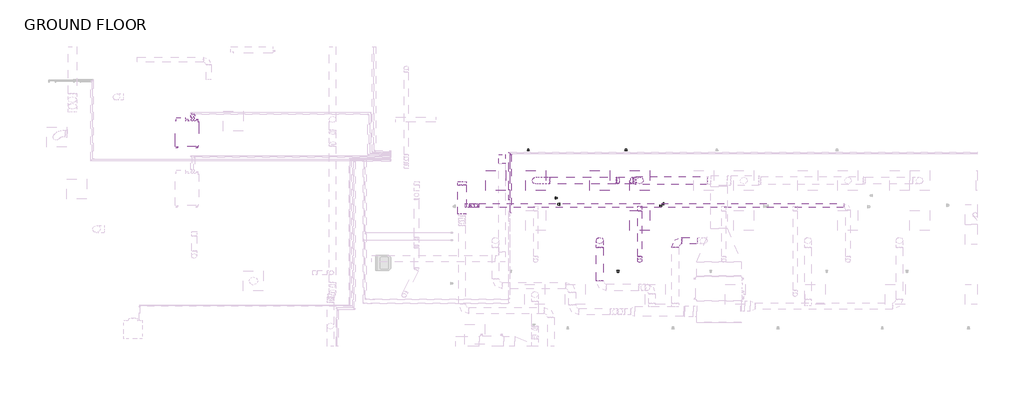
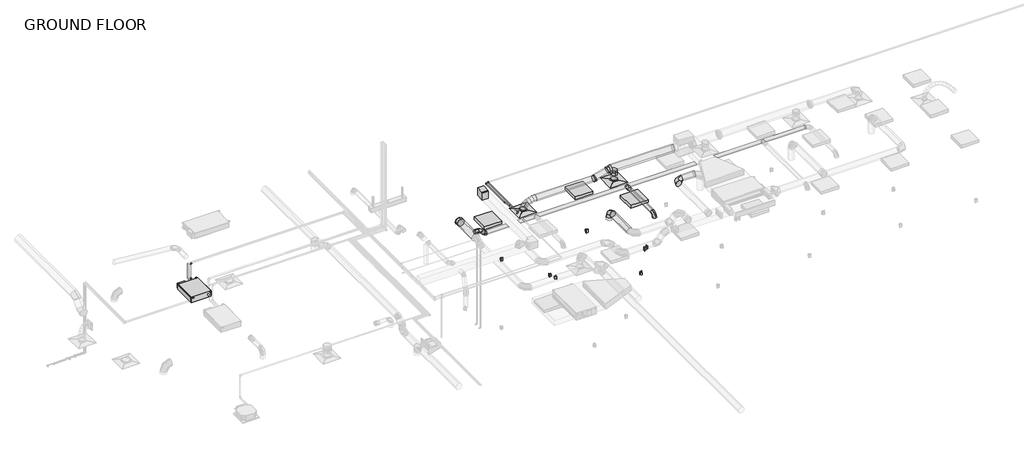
# One storey, part 15 of 20: 14 duct segments, 13 duct fittings, 7 pipe fittings, 7 pipe segments, 7 proxies, 3 light fixtures, 2 air terminals, 1 switching device.
"""IFC4 building model written with IfcOpenShell, lengths in millimetres."""

from ifc_helpers import new_model, si_unit, point, frame, frame_2d, origin, place, context, project, spatial, circle_curve, ellipse_curve, trimmed, segment, composite_curve, outline, extrude, transform, mapped, element, save
from ifc_brep_helpers import plane_surface, cylinder_surface, advanced_brep
from components import air_terminal_e9020785, mechanical_equipment_deea6110, duplex_receptacle_countertop_10251bba, rectangular_elbow_mitered_standard_f09b78ec, round_elbow_1_d_a253342a, round_elbow_1_d_c80420c1, round_elbow_1_d_adb29f0a, round_elbow_1_d_42c0595d, round_takeoff_standard_ca4b4131, round_takeoff_standard_17dc06e3, round_takeoff_standard_86724b47, round_takeoff_standard_17f2ae85, round_transition_angle_45_degree_2c0294df, troffer_corner_insert_2x2_3lamp_e67c7f8f, elbow_generic_standard_be2ddd46, elbow_generic_standard_c06ac706, elbow_generic_standard_3179f303, transition_generic_standard_43f54093

model = new_model("IFC4")

# Units and contexts
model_context = context("Model", 3, world=origin())
ifc_project = project(units=[si_unit("LENGTHUNIT", "METRE", prefix="MILLI")], contexts=[model_context])

# Site, building, storey
site = spatial("IfcSite", under=ifc_project)
building = spatial("IfcBuilding", under=site)
storey = spatial("IfcBuildingStorey", under=building, Name="GROUND FLOOR", Elevation=30480.0)

# Air terminals
placement = place(None, origin())
air_terminal_shape = air_terminal_e9020785(model_context)
element("IfcAirTerminal", 1, ObjectType="Supply Diffuser - Rectangular Face Round Neck - Hosted : 24\"x24\" Face 8\" Neck - Hosted", at=placement, inside=storey, context=model_context, shape_type="MappedRepresentation", body=[
    mapped(air_terminal_shape, transform((-5009.1954607, 6811.3695005, 33223.2), x_axis=(0.0, -1.0, 0.0), y_axis=(-1.0, 0.0, 0.0), z_axis=(0.0, 0.0, -1.0))),
])
element("IfcAirTerminal", 2, ObjectType="Supply Diffuser - Rectangular Face Round Neck - Hosted : 24\"x24\" Face 8\" Neck - Hosted", at=placement, inside=storey, context=model_context, shape_type="MappedRepresentation", body=[
    mapped(air_terminal_shape, transform((-1837.3704607, 6811.3695005, 33223.2), x_axis=(0.0, -1.0, 0.0), y_axis=(-1.0, 0.0, 0.0), z_axis=(0.0, 0.0, -1.0))),
])

# Proxies
mechanical_equipment_shape = mechanical_equipment_deea6110(model_context)
element("IfcBuildingElementProxy", 3, Name="PEFY-P-NMSU-E_Low_Profile_Ducted : PEFY-P12NMSU-E", ObjectType="PEFY-P-NMSU-E_Low_Profile_Ducted : PEFY-P12NMSU-E", at=placement, inside=storey, context=model_context, shape_type="MappedRepresentation", body=[
    mapped(mechanical_equipment_shape, transform((-15624.8774525, 8243.4520797, 33021.7207031), x_axis=(0.0, 1.0, 0.0), y_axis=(-1.0, 0.0, 0.0), z_axis=(0.0, 0.0, 1.0))),
])
duplex_receptacle_countertop_shape = duplex_receptacle_countertop_10251bba(model_context)
element("IfcBuildingElementProxy", 4, Name="Duplex Receptacle : Standard", ObjectType="Duplex Receptacle : Standard", at=placement, inside=storey, context=model_context, shape_type="MappedRepresentation", body=[
    mapped(duplex_receptacle_countertop_shape, transform((-5231.5700418, 7725.7695005, 30937.2), x_axis=(-1.0, 0.0, 0.0), y_axis=(0.0, 0.0, -1.0), z_axis=(0.0, -1.0, 0.0))),
])
element("IfcBuildingElementProxy", 5, Name="Duplex Receptacle : Standard", ObjectType="Duplex Receptacle : Standard", at=placement, inside=storey, context=model_context, shape_type="MappedRepresentation", body=[
    mapped(duplex_receptacle_countertop_shape, transform((-4399.5954607, 6279.0494659, 30937.2), x_axis=(0.0, -1.0, 0.0), y_axis=(0.0, 0.0, 1.0), z_axis=(-1.0, 0.0, 0.0))),
])
element("IfcBuildingElementProxy", 6, Name="Duplex Receptacle : Standard", ObjectType="Duplex Receptacle : Standard", at=placement, inside=storey, context=model_context, shape_type="MappedRepresentation", body=[
    mapped(duplex_receptacle_countertop_shape, transform((-4275.7704607, 6088.963024, 30937.2), x_axis=(0.0, 1.0, 0.0), y_axis=(0.0, 0.0, 1.0), z_axis=(1.0, 0.0, 0.0))),
])
element("IfcBuildingElementProxy", 7, Name="Duplex Receptacle : Standard", ObjectType="Duplex Receptacle : Standard", at=placement, inside=storey, context=model_context, shape_type="MappedRepresentation", body=[
    mapped(duplex_receptacle_countertop_shape, transform((-2255.887518, 7725.7695005, 30937.2), x_axis=(-1.0, 0.0, 0.0), y_axis=(0.0, 0.0, -1.0), z_axis=(0.0, -1.0, 0.0))),
])
element("IfcBuildingElementProxy", 8, Name="Duplex Receptacle : Standard", ObjectType="Duplex Receptacle : Standard", at=placement, inside=storey, context=model_context, shape_type="MappedRepresentation", body=[
    mapped(duplex_receptacle_countertop_shape, transform((-1227.7704607, 6038.2733061, 30937.2), x_axis=(0.0, -1.0, 0.0), y_axis=(0.0, 0.0, 1.0), z_axis=(-1.0, 0.0, 0.0))),
])
element("IfcBuildingElementProxy", 9, Name="Duplex Receptacle : Standard", ObjectType="Duplex Receptacle : Standard", at=placement, inside=storey, context=model_context, shape_type="MappedRepresentation", body=[
    mapped(duplex_receptacle_countertop_shape, transform((-1103.9454607, 6101.6354535, 30937.2), x_axis=(0.0, 1.0, 0.0), y_axis=(0.0, 0.0, 1.0), z_axis=(1.0, 0.0, 0.0))),
])

# Duct fittings
rectangular_elbow_mitered_standard_shape = rectangular_elbow_mitered_standard_f09b78ec(model_context)
element("IfcDuctFitting", 10, ObjectType="Rectangular Elbow - Mitered : Standard", at=placement, inside=storey, context=model_context, shape_type="MappedRepresentation", body=[
    mapped(rectangular_elbow_mitered_standard_shape, transform((-6029.8204015, 7478.1195005, 33807.4), x_axis=(0.0, 1.0, 0.0), y_axis=(0.0, 0.0, 1.0), z_axis=(1.0, 0.0, 0.0))),
])
round_elbow_1_d_shape = round_elbow_1_d_a253342a(model_context)
element("IfcDuctFitting", 11, ObjectType="Round Elbow : 1 D", at=placement, inside=storey, context=model_context, shape_type="MappedRepresentation", body=[
    mapped(round_elbow_1_d_shape, transform((-3056.5704607, 4982.5695005, 33629.6), x_axis=(0.0, 0.0, 1.0), y_axis=(0.0, -1.0, 0.0), z_axis=(1.0, 0.0, 0.0))),
])
element("IfcDuctFitting", 12, ObjectType="Round Elbow : 1 D", at=placement, inside=storey, context=model_context, shape_type="MappedRepresentation", body=[
    mapped(round_elbow_1_d_shape, transform((-754.6339071, 4982.5695005, 33947.89375), x_axis=(-1.0, 0.0, 0.0), y_axis=(0.0, -1.0, 0.0), z_axis=(0.0, 0.0, 1.0))),
])
round_elbow_1_d_2_shape = round_elbow_1_d_c80420c1(model_context)
element("IfcDuctFitting", 13, ObjectType="Round Elbow : 1 D", at=placement, inside=storey, context=model_context, shape_type="MappedRepresentation", body=[
    mapped(round_elbow_1_d_2_shape, transform((-1837.3704607, 4372.9695005, 33464.5), x_axis=(0.0, -1.0, 0.0), y_axis=(0.0, 0.0, -1.0), z_axis=(1.0, 0.0, 0.0))),
])
round_elbow_1_d_3_shape = round_elbow_1_d_adb29f0a(model_context)
element("IfcDuctFitting", 14, ObjectType="Round Elbow : 1 D", at=placement, inside=storey, context=model_context, shape_type="MappedRepresentation", body=[
    mapped(round_elbow_1_d_3_shape, transform((-2055.3843434, 6811.3695005, 33680.0490295), x_axis=(-1.0, 0.0, 0.0), y_axis=(0.0, 0.0, -1.0), z_axis=(0.0, -1.0, 0.0))),
])
element("IfcDuctFitting", 15, ObjectType="Round Elbow : 1 D", at=placement, inside=storey, context=model_context, shape_type="MappedRepresentation", body=[
    mapped(round_elbow_1_d_3_shape, transform((-2523.3431384, 6811.3695005, 33528.0), x_axis=(-0.9510565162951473, 0.0, -0.30901699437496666), y_axis=(-0.30901699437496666, 0.0, 0.9510565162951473), z_axis=(0.0, 1.0, 0.0))),
])
round_elbow_1_d_4_shape = round_elbow_1_d_42c0595d(model_context)
element("IfcDuctFitting", 16, ObjectType="Round Elbow : 1 D", at=placement, inside=storey, context=model_context, shape_type="MappedRepresentation", body=[
    mapped(round_elbow_1_d_4_shape, transform((-6958.932468, 6049.3695005, 33629.6), x_axis=(1.0, 0.0, 0.0), y_axis=(0.0, 0.0, -1.0), z_axis=(0.0, 1.0, 0.0))),
])
element("IfcDuctFitting", 17, ObjectType="Round Elbow : 1 D", at=placement, inside=storey, context=model_context, shape_type="MappedRepresentation", body=[
    mapped(round_elbow_1_d_4_shape, transform((-6793.8326712, 6049.3695005, 33464.5), x_axis=(0.707106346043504, 0.0, -0.7071072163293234), y_axis=(0.7071072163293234, 0.0, 0.707106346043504), z_axis=(0.0, -1.0, 0.0))),
])
round_takeoff_standard_shape = round_takeoff_standard_ca4b4131(model_context)
element("IfcDuctFitting", 18, ObjectType="Round Takeoff : Standard", at=placement, inside=storey, context=model_context, shape_type="MappedRepresentation", body=[
    mapped(round_takeoff_standard_shape, transform((-1837.3704607, 6811.3695005, 33553.0490295), x_axis=(0.0, 0.0, -1.0), y_axis=(1.0, 0.0, 0.0), z_axis=(0.0, -1.0, 0.0))),
])
round_takeoff_standard_2_shape = round_takeoff_standard_17dc06e3(model_context)
element("IfcDuctFitting", 19, ObjectType="Round Takeoff : Standard", at=placement, inside=storey, context=model_context, shape_type="MappedRepresentation", body=[
    mapped(round_takeoff_standard_2_shape, transform((-1837.3704607, 5985.8695005, 33464.5), x_axis=(0.0, -1.0, 0.0), y_axis=(-1.0, 0.0, 0.0), z_axis=(0.0, 0.0, -1.0))),
])
round_takeoff_standard_3_shape = round_takeoff_standard_86724b47(model_context)
element("IfcDuctFitting", 20, ObjectType="Round Takeoff : Standard", at=placement, inside=storey, context=model_context, shape_type="MappedRepresentation", body=[
    mapped(round_takeoff_standard_3_shape, transform((-7253.9204607, 6781.4293332, 33629.6), x_axis=(0.0, -1.0, 0.0), y_axis=(-1.0, 0.0, 0.0), z_axis=(0.0, 0.0, -1.0))),
])
round_takeoff_standard_4_shape = round_takeoff_standard_17f2ae85(model_context)
element("IfcDuctFitting", 21, ObjectType="Round Takeoff : Standard", at=placement, inside=storey, context=model_context, shape_type="MappedRepresentation", body=[
    mapped(round_takeoff_standard_4_shape, transform((-7126.9204607, 6049.3695005, 33629.6), x_axis=(1.0, 0.0, 0.0), y_axis=(0.0, 1.0, 0.0), z_axis=(0.0, 0.0, 1.0))),
])
round_transition_angle_45_degree_shape = round_transition_angle_45_degree_2c0294df(model_context)
element("IfcDuctFitting", 22, ObjectType="Round Transition - Angle : 45 Degree", at=placement, inside=storey, context=model_context, shape_type="MappedRepresentation", body=[
    mapped(round_transition_angle_45_degree_shape, transform((-1961.8796006, 6811.3695005, 33680.0490295), x_axis=(-1.0, 0.0, 0.0), y_axis=(0.0, -1.0, 0.0), z_axis=(0.0, 0.0, 1.0))),
])

# Duct segments
element("IfcDuctSegment", 23, ObjectType="Flex - Round", at=placement, inside=storey, context=model_context, shape_type="AdvancedBrep", body=[
    advanced_brep(
    [(-4580.7431384, 6709.7695005, 33528.0), (-4580.7431384, 6811.3695005, 33426.4), (-4580.7431384, 6912.9695005, 33528.0), (-4580.7431384, 6811.3695005, 33629.6), (-4588.790283, 6709.7695005, 33528.0), (-4584.3622178, 6811.3695005, 33426.4), (-4588.790283, 6912.9695005, 33528.0), (-4593.2183481, 6811.3695005, 33629.6), (-5009.1954607, 6709.7695005, 33277.175), (-5110.7954607, 6811.3695005, 33277.175), (-5009.1954607, 6912.9695005, 33277.175), (-4907.5954607, 6811.3695005, 33277.175), (-4669.9423992, 6709.7695005, 33520.9127807), (-4654.4566913, 6811.3695005, 33420.2784726), (-4669.9423992, 6912.9695005, 33520.9127807), (-4685.4281072, 6811.3695005, 33621.5470889), (-4765.3747964, 6709.7695005, 33499.7470094), (-4736.047964, 6811.3695005, 33402.1824982), (-4765.3747964, 6912.9695005, 33499.7470094), (-4794.7016287, 6811.3695005, 33597.3115207), (-4857.0283155, 6709.7695005, 33464.6465159), (-4811.4139874, 6811.3695005, 33373.3196172), (-4857.0283155, 6912.9695005, 33464.6465159), (-4902.6426435, 6811.3695005, 33555.9734146), (-4934.8909421, 6709.7695005, 33415.75513), (-4867.9774847, 6811.3695005, 33337.8023492), (-4934.8909421, 6912.9695005, 33415.75513), (-5001.8043995, 6811.3695005, 33493.7079107), (-4988.950662, 6709.7695005, 33353.2166814), (-4901.1121467, 6811.3695005, 33299.4708454), (-4988.950662, 6912.9695005, 33353.2166814), (-5076.7891773, 6811.3695005, 33406.9625174), (-5009.1954607, 6709.7695005, 33303.3137649), (-4907.5954607, 6811.3695005, 33283.4896405), (-5009.1954607, 6912.9695005, 33303.3137649), (-5110.7954607, 6811.3695005, 33323.1378893)],
    [
        (0, 1, circle_curve(frame((-4580.7431384, 6811.3695005, 33528.0), z_axis=(1.0, 0.0, 0.0), x_axis=(0.0, -1.0, 0.0)), 101.6)),
        (1, 2, circle_curve(frame((-4580.7431384, 6811.3695005, 33528.0), z_axis=(1.0, 0.0, 0.0), x_axis=(0.0, -1.0, 0.0)), 101.6)),
        (2, 3, circle_curve(frame((-4580.7431384, 6811.3695005, 33528.0), z_axis=(1.0, 0.0, 0.0), x_axis=(0.0, -1.0, 0.0)), 101.6)),
        (3, 0, circle_curve(frame((-4580.7431384, 6811.3695005, 33528.0), z_axis=(1.0, 0.0, 0.0), x_axis=(0.0, -1.0, 0.0)), 101.6)),
        (0, 4),
        (4, 5, ellipse_curve(frame((-4588.790283, 6811.3695005, 33528.0), z_axis=(0.9990515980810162, 0.0, 0.043541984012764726), x_axis=(0.043541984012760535, 0.0, -0.9990515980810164)), 101.6964491, 101.6)),
        (5, 1),
        (5, 6, ellipse_curve(frame((-4588.790283, 6811.3695005, 33528.0), z_axis=(0.9990515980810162, 0.0, 0.043541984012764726), x_axis=(0.043541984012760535, 0.0, -0.9990515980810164)), 101.6964491, 101.6)),
        (6, 2),
        (6, 7, ellipse_curve(frame((-4588.790283, 6811.3695005, 33528.0), z_axis=(0.9990515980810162, 0.0, 0.043541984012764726), x_axis=(0.043541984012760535, 0.0, -0.9990515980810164)), 101.6964491, 101.6)),
        (7, 3),
        (7, 4, ellipse_curve(frame((-4588.790283, 6811.3695005, 33528.0), z_axis=(0.9990515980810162, 0.0, 0.043541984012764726), x_axis=(0.043541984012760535, 0.0, -0.9990515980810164)), 101.6964491, 101.6)),
        (8, 9, circle_curve(frame((-5009.1954607, 6811.3695005, 33277.175), z_axis=(0.0, 0.0, -1.0), x_axis=(0.0, -1.0, 0.0)), 101.6)),
        (9, 10, circle_curve(frame((-5009.1954607, 6811.3695005, 33277.175), z_axis=(0.0, 0.0, -1.0), x_axis=(0.0, -1.0, 0.0)), 101.6)),
        (10, 11, circle_curve(frame((-5009.1954607, 6811.3695005, 33277.175), z_axis=(0.0, 0.0, -1.0), x_axis=(0.0, -1.0, 0.0)), 101.6)),
        (11, 8, circle_curve(frame((-5009.1954607, 6811.3695005, 33277.175), z_axis=(0.0, 0.0, -1.0), x_axis=(0.0, -1.0, 0.0)), 101.6)),
        (4, 12),
        (12, 13, ellipse_curve(frame((-4669.9423992, 6811.3695005, 33520.9127807), z_axis=(0.9883665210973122, 0.0, 0.15209082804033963), x_axis=(0.15209082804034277, 0.0, -0.9883665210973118)), 101.8188152, 101.6)),
        (13, 5),
        (13, 14, ellipse_curve(frame((-4669.9423992, 6811.3695005, 33520.9127807), z_axis=(0.9883665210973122, 0.0, 0.15209082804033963), x_axis=(0.15209082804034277, 0.0, -0.9883665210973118)), 101.8188152, 101.6)),
        (14, 6),
        (14, 15, ellipse_curve(frame((-4669.9423992, 6811.3695005, 33520.9127807), z_axis=(0.9883665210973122, 0.0, 0.15209082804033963), x_axis=(0.15209082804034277, 0.0, -0.9883665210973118)), 101.8188152, 101.6)),
        (15, 7),
        (15, 12, ellipse_curve(frame((-4669.9423992, 6811.3695005, 33520.9127807), z_axis=(0.9883665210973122, 0.0, 0.15209082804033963), x_axis=(0.15209082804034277, 0.0, -0.9883665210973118)), 101.8188152, 101.6)),
        (12, 16),
        (16, 17, ellipse_curve(frame((-4765.3747964, 6811.3695005, 33499.7470094), z_axis=(0.9576708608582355, 0.0, 0.2878654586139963), x_axis=(0.2878654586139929, 0.0, -0.9576708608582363)), 101.8768715, 101.6)),
        (17, 13),
        (17, 18, ellipse_curve(frame((-4765.3747964, 6811.3695005, 33499.7470094), z_axis=(0.9576708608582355, 0.0, 0.2878654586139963), x_axis=(0.2878654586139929, 0.0, -0.9576708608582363)), 101.8768715, 101.6)),
        (18, 14),
        (18, 19, ellipse_curve(frame((-4765.3747964, 6811.3695005, 33499.7470094), z_axis=(0.9576708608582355, 0.0, 0.2878654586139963), x_axis=(0.2878654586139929, 0.0, -0.9576708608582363)), 101.8768715, 101.6)),
        (19, 15),
        (19, 16, ellipse_curve(frame((-4765.3747964, 6811.3695005, 33499.7470094), z_axis=(0.9576708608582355, 0.0, 0.2878654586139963), x_axis=(0.2878654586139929, 0.0, -0.9576708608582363)), 101.8768715, 101.6)),
        (16, 20),
        (20, 21, ellipse_curve(frame((-4857.0283155, 6811.3695005, 33464.6465159), z_axis=(0.8946195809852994, 0.0, 0.4468286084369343), x_axis=(0.44682860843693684, 0.0, -0.8946195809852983)), 102.0846186, 101.6)),
        (21, 17),
        (21, 22, ellipse_curve(frame((-4857.0283155, 6811.3695005, 33464.6465159), z_axis=(0.8946195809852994, 0.0, 0.4468286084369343), x_axis=(0.44682860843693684, 0.0, -0.8946195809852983)), 102.0846186, 101.6)),
        (22, 18),
        (22, 23, ellipse_curve(frame((-4857.0283155, 6811.3695005, 33464.6465159), z_axis=(0.8946195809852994, 0.0, 0.4468286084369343), x_axis=(0.44682860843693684, 0.0, -0.8946195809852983)), 102.0846186, 101.6)),
        (23, 19),
        (23, 20, ellipse_curve(frame((-4857.0283155, 6811.3695005, 33464.6465159), z_axis=(0.8946195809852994, 0.0, 0.4468286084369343), x_axis=(0.44682860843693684, 0.0, -0.8946195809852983)), 102.0846186, 101.6)),
        (20, 24),
        (24, 25, ellipse_curve(frame((-4934.8909421, 6811.3695005, 33415.75513), z_axis=(0.7587908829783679, 0.0, 0.6513343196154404), x_axis=(0.6513343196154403, 0.0, -0.758790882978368)), 102.7328906, 101.6)),
        (25, 21),
        (25, 26, ellipse_curve(frame((-4934.8909421, 6811.3695005, 33415.75513), z_axis=(0.7587908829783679, 0.0, 0.6513343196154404), x_axis=(0.6513343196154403, 0.0, -0.758790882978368)), 102.7328906, 101.6)),
        (26, 22),
        (26, 27, ellipse_curve(frame((-4934.8909421, 6811.3695005, 33415.75513), z_axis=(0.7587908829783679, 0.0, 0.6513343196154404), x_axis=(0.6513343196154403, 0.0, -0.758790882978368)), 102.7328906, 101.6)),
        (27, 23),
        (27, 24, ellipse_curve(frame((-4934.8909421, 6811.3695005, 33415.75513), z_axis=(0.7587908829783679, 0.0, 0.6513343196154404), x_axis=(0.6513343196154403, 0.0, -0.758790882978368)), 102.7328906, 101.6)),
        (24, 28),
        (28, 29, ellipse_curve(frame((-4988.950662, 6811.3695005, 33353.2166814), z_axis=(0.5219218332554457, 0.0, 0.852993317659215), x_axis=(0.8529933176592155, 0.0, -0.521921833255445)), 102.9767918, 101.6)),
        (29, 25),
        (29, 30, ellipse_curve(frame((-4988.950662, 6811.3695005, 33353.2166814), z_axis=(0.5219218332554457, 0.0, 0.852993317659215), x_axis=(0.8529933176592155, 0.0, -0.521921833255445)), 102.9767918, 101.6)),
        (30, 26),
        (30, 31, ellipse_curve(frame((-4988.950662, 6811.3695005, 33353.2166814), z_axis=(0.5219218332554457, 0.0, 0.852993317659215), x_axis=(0.8529933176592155, 0.0, -0.521921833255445)), 102.9767918, 101.6)),
        (31, 27),
        (31, 28, ellipse_curve(frame((-4988.950662, 6811.3695005, 33353.2166814), z_axis=(0.5219218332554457, 0.0, 0.852993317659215), x_axis=(0.8529933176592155, 0.0, -0.521921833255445)), 102.9767918, 101.6)),
        (28, 32),
        (32, 33, ellipse_curve(frame((-5009.1954607, 6811.3695005, 33303.3137649), z_axis=(0.1915078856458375, 0.0, 0.9814910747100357), x_axis=(0.9814910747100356, 0.0, -0.1915078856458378)), 103.5159693, 101.6)),
        (33, 29),
        (33, 34, ellipse_curve(frame((-5009.1954607, 6811.3695005, 33303.3137649), z_axis=(0.1915078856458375, 0.0, 0.9814910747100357), x_axis=(0.9814910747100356, 0.0, -0.1915078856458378)), 103.5159693, 101.6)),
        (34, 30),
        (34, 35, ellipse_curve(frame((-5009.1954607, 6811.3695005, 33303.3137649), z_axis=(0.1915078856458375, 0.0, 0.9814910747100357), x_axis=(0.9814910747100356, 0.0, -0.1915078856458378)), 103.5159693, 101.6)),
        (35, 31),
        (35, 32, ellipse_curve(frame((-5009.1954607, 6811.3695005, 33303.3137649), z_axis=(0.1915078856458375, 0.0, 0.9814910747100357), x_axis=(0.9814910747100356, 0.0, -0.1915078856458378)), 103.5159693, 101.6)),
        (32, 8),
        (11, 33),
        (10, 34),
        (9, 35),
    ],
    [
        plane_surface(frame((-4580.7431384, 6811.3695005, 33426.4), z_axis=(1.0, 0.0, 0.0), x_axis=(0.0, -1.0, 0.0))),
        cylinder_surface(frame((-4580.7431384, 6811.3695005, 33528.0), z_axis=(1.0, 0.0, 0.0), x_axis=(0.0, -1.0, 0.0)), 101.6),
        plane_surface(frame((-5009.1954607, 6709.7695005, 33277.175), z_axis=(0.0, 0.0, -1.0), x_axis=(-1.0, 0.0, 0.0))),
        cylinder_surface(frame((-4588.790283, 6811.3695005, 33528.0), z_axis=(0.9962081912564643, 0.0, 0.0870013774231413), x_axis=(0.0, -1.0, 0.0)), 101.6),
        cylinder_surface(frame((-4669.9423992, 6811.3695005, 33520.9127807), z_axis=(0.9762767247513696, 0.0, 0.2165265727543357), x_axis=(0.0, -1.0, 0.0)), 101.6),
        cylinder_surface(frame((-4765.3747964, 6811.3695005, 33499.7470094), z_axis=(0.9338596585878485, 0.0, 0.3576396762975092), x_axis=(0.0, -1.0, 0.0)), 101.6),
        cylinder_surface(frame((-4857.0283155, 6811.3695005, 33464.6465159), z_axis=(0.8468855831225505, 0.0, 0.5317751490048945), x_axis=(0.0, -1.0, 0.0)), 101.6),
        cylinder_surface(frame((-4934.8909421, 6811.3695005, 33415.75513), z_axis=(0.653960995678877, 0.0, 0.7565282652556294), x_axis=(0.0, -1.0, 0.0)), 101.6),
        cylinder_surface(frame((-4988.950662, 6811.3695005, 33353.2166814), z_axis=(0.3759265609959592, 0.0, 0.9266494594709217), x_axis=(0.0, -1.0, 0.0)), 101.6),
        cylinder_surface(frame((-5009.1954607, 6811.3695005, 33303.3137649), z_axis=(0.0, 0.0, 1.0), x_axis=(0.0, -1.0, 0.0)), 101.6),
    ],
    [
        (0, [[1, 2, 3, 4]]),
        (1, [[-1, 5, 6, 7]]),
        (1, [[-2, -7, 8, 9]]),
        (1, [[-3, -9, 10, 11]]),
        (1, [[-4, -11, 12, -5]]),
        (2, [[13, 14, 15, 16]]),
        (3, [[-6, 17, 18, 19]]),
        (3, [[-8, -19, 20, 21]]),
        (3, [[-10, -21, 22, 23]]),
        (3, [[-12, -23, 24, -17]]),
        (4, [[-18, 25, 26, 27]]),
        (4, [[-20, -27, 28, 29]]),
        (4, [[-22, -29, 30, 31]]),
        (4, [[-24, -31, 32, -25]]),
        (5, [[-26, 33, 34, 35]]),
        (5, [[-28, -35, 36, 37]]),
        (5, [[-30, -37, 38, 39]]),
        (5, [[-32, -39, 40, -33]]),
        (6, [[-34, 41, 42, 43]]),
        (6, [[-36, -43, 44, 45]]),
        (6, [[-38, -45, 46, 47]]),
        (6, [[-40, -47, 48, -41]]),
        (7, [[-42, 49, 50, 51]]),
        (7, [[-44, -51, 52, 53]]),
        (7, [[-46, -53, 54, 55]]),
        (7, [[-48, -55, 56, -49]]),
        (8, [[-50, 57, 58, 59]]),
        (8, [[-52, -59, 60, 61]]),
        (8, [[-54, -61, 62, 63]]),
        (8, [[-56, -63, 64, -57]]),
        (9, [[-58, 65, -16, 66]]),
        (9, [[-60, -66, -15, 67]]),
        (9, [[-62, -67, -14, 68]]),
        (9, [[-64, -68, -13, -65]]),
    ],
),
])
element("IfcDuctSegment", 24, ObjectType="Taps / Short Radius", at=placement, inside=storey, context=model_context, shape_type="SweptSolid", body=[
    extrude(outline(composite_curve([segment(trimmed(circle_curve(frame_2d((6811.3695005, 33680.0490295)), 127.0), [point((6938.3695005, 33680.0490295))], [point((6811.3695005, 33553.0490295))], False, "CARTESIAN"), True, "CONTINUOUS"), segment(trimmed(circle_curve(frame_2d((6811.3695005, 33680.0490295)), 127.0), [point((6811.3695005, 33553.0490295))], [point((6684.3695005, 33680.0490295))], False, "CARTESIAN"), True, "CONTINUOUS"), segment(trimmed(circle_curve(frame_2d((6811.3695005, 33680.0490295)), 127.0), [point((6684.3695005, 33680.0490295))], [point((6811.3695005, 33807.0490295))], False, "CARTESIAN"), True, "CONTINUOUS"), segment(trimmed(circle_curve(frame_2d((6811.3695005, 33680.0490295)), 127.0), [point((6811.3695005, 33807.0490295))], [point((6938.3695005, 33680.0490295))], False, "CARTESIAN"), True, "CONTINUOUS")], self_intersect=False)), frame((-1961.8796006, 0.0, 0.0), z_axis=(1.0, 0.0, 0.0), x_axis=(0.0, 1.0, 0.0)), (0.0, 0.0, 1.0), 2182.2731725),
])
element("IfcDuctSegment", 25, ObjectType="Taps / Short Radius", at=placement, inside=storey, context=model_context, shape_type="SweptSolid", body=[
    extrude(outline(composite_curve([segment(trimmed(circle_curve(frame_2d((0.0, -101.6)), 101.6), [point((0.0, 0.0))], [point((101.6, -101.6))], False, "CARTESIAN"), True, "CONTINUOUS"), segment(trimmed(circle_curve(frame_2d((0.0, -101.6)), 101.6), [point((101.6, -101.6))], [point((0.0, -203.2))], False, "CARTESIAN"), True, "CONTINUOUS"), segment(trimmed(circle_curve(frame_2d((0.0, -101.6)), 101.6), [point((0.0, -203.2))], [point((-101.6, -101.6))], False, "CARTESIAN"), True, "CONTINUOUS"), segment(trimmed(circle_curve(frame_2d((0.0, -101.6)), 101.6), [point((-101.6, -101.6))], [point((0.0, 0.0))], False, "CARTESIAN"), True, "CONTINUOUS")], self_intersect=False)), frame((-2492.7346034, 6912.9695005, 33537.9453159), z_axis=(0.9510565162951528, 0.0, 0.30901699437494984), x_axis=(0.30901699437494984, 0.0, -0.9510565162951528)), (0.0, 0.0, 1.0), 427.6735589),
])
element("IfcDuctSegment", 26, ObjectType="Taps / Short Radius", at=placement, inside=storey, context=model_context, shape_type="SweptSolid", body=[
    extrude(outline(composite_curve([segment(trimmed(circle_curve(frame_2d((6811.3695005, 33528.0)), 101.6), [point((6912.9695005, 33528.0))], [point((6811.3695005, 33426.4))], False, "CARTESIAN"), True, "CONTINUOUS"), segment(trimmed(circle_curve(frame_2d((6811.3695005, 33528.0)), 101.6), [point((6811.3695005, 33426.4))], [point((6709.7695005, 33528.0))], False, "CARTESIAN"), True, "CONTINUOUS"), segment(trimmed(circle_curve(frame_2d((6811.3695005, 33528.0)), 101.6), [point((6709.7695005, 33528.0))], [point((6811.3695005, 33629.6))], False, "CARTESIAN"), True, "CONTINUOUS"), segment(trimmed(circle_curve(frame_2d((6811.3695005, 33528.0)), 101.6), [point((6811.3695005, 33629.6))], [point((6912.9695005, 33528.0))], False, "CARTESIAN"), True, "CONTINUOUS")], self_intersect=False)), frame((-4580.7431384, 0.0, 0.0), z_axis=(1.0, 0.0, 0.0), x_axis=(0.0, 1.0, 0.0)), (0.0, 0.0, 1.0), 2025.2162817),
])
element("IfcDuctSegment", 27, ObjectType="Taps / Short Radius", at=placement, inside=storey, context=model_context, shape_type="SweptSolid", body=[
    extrude(outline(composite_curve([segment(trimmed(circle_curve(frame_2d((-1837.3704607, 6811.3695005)), 101.6), [point((-1735.7704607, 6811.3695005))], [point((-1837.3704607, 6709.7695005))], False, "CARTESIAN"), True, "CONTINUOUS"), segment(trimmed(circle_curve(frame_2d((-1837.3704607, 6811.3695005)), 101.6), [point((-1837.3704607, 6709.7695005))], [point((-1938.9704607, 6811.3695005))], False, "CARTESIAN"), True, "CONTINUOUS"), segment(trimmed(circle_curve(frame_2d((-1837.3704607, 6811.3695005)), 101.6), [point((-1938.9704607, 6811.3695005))], [point((-1837.3704607, 6912.9695005))], False, "CARTESIAN"), True, "CONTINUOUS"), segment(trimmed(circle_curve(frame_2d((-1837.3704607, 6811.3695005)), 101.6), [point((-1837.3704607, 6912.9695005))], [point((-1735.7704607, 6811.3695005))], False, "CARTESIAN"), True, "CONTINUOUS")], self_intersect=False)), frame((0.0, 0.0, 33277.175), z_axis=(0.0, 0.0, 1.0), x_axis=(1.0, 0.0, 0.0)), (0.0, 0.0, 1.0), 174.2740295),
])
element("IfcDuctSegment", 28, ObjectType="Taps / Short Radius", at=placement, inside=storey, context=model_context, shape_type="SweptSolid", body=[
    extrude(outline(composite_curve([segment(trimmed(circle_curve(frame_2d((33629.6, -3056.5704607)), 101.6), [point((33629.6, -3158.1704607))], [point((33528.0, -3056.5704607))], False, "CARTESIAN"), True, "CONTINUOUS"), segment(trimmed(circle_curve(frame_2d((33629.6, -3056.5704607)), 101.6), [point((33528.0, -3056.5704607))], [point((33629.6, -2954.9704607))], False, "CARTESIAN"), True, "CONTINUOUS"), segment(trimmed(circle_curve(frame_2d((33629.6, -3056.5704607)), 101.6), [point((33629.6, -2954.9704607))], [point((33731.2, -3056.5704607))], False, "CARTESIAN"), True, "CONTINUOUS"), segment(trimmed(circle_curve(frame_2d((33629.6, -3056.5704607)), 101.6), [point((33731.2, -3056.5704607))], [point((33629.6, -3158.1704607))], False, "CARTESIAN"), True, "CONTINUOUS")], self_intersect=False)), frame((0.0, 3758.101218, 0.0), z_axis=(0.0, 1.0, 0.0), x_axis=(0.0, 0.0, 1.0)), (0.0, 0.0, 1.0), 1021.2682826),
])
element("IfcDuctSegment", 29, ObjectType="Taps / Short Radius", at=placement, inside=storey, context=model_context, shape_type="SweptSolid", body=[
    extrude(outline(composite_curve([segment(trimmed(circle_curve(frame_2d((-3056.5704607, 4982.5695005)), 101.6), [point((-3158.1704607, 4982.5695005))], [point((-3056.5704607, 5084.1695005))], False, "CARTESIAN"), True, "CONTINUOUS"), segment(trimmed(circle_curve(frame_2d((-3056.5704607, 4982.5695005)), 101.6), [point((-3056.5704607, 5084.1695005))], [point((-2954.9704607, 4982.5695005))], False, "CARTESIAN"), True, "CONTINUOUS"), segment(trimmed(circle_curve(frame_2d((-3056.5704607, 4982.5695005)), 101.6), [point((-2954.9704607, 4982.5695005))], [point((-3056.5704607, 4880.9695005))], False, "CARTESIAN"), True, "CONTINUOUS"), segment(trimmed(circle_curve(frame_2d((-3056.5704607, 4982.5695005)), 101.6), [point((-3056.5704607, 4880.9695005))], [point((-3158.1704607, 4982.5695005))], False, "CARTESIAN"), True, "CONTINUOUS")], self_intersect=False)), frame((0.0, 0.0, 33324.8), z_axis=(0.0, 0.0, 1.0), x_axis=(1.0, 0.0, 0.0)), (0.0, 0.0, 1.0), 101.6),
])
element("IfcDuctSegment", 30, ObjectType="Taps / Short Radius", at=placement, inside=storey, context=model_context, shape_type="SweptSolid", body=[
    extrude(outline(composite_curve([segment(trimmed(circle_curve(frame_2d((4982.5695005, 33947.89375)), 101.6), [point((5084.1695005, 33947.89375))], [point((4982.5695005, 33846.29375))], False, "CARTESIAN"), True, "CONTINUOUS"), segment(trimmed(circle_curve(frame_2d((4982.5695005, 33947.89375)), 101.6), [point((4982.5695005, 33846.29375))], [point((4880.9695005, 33947.89375))], False, "CARTESIAN"), True, "CONTINUOUS"), segment(trimmed(circle_curve(frame_2d((4982.5695005, 33947.89375)), 101.6), [point((4880.9695005, 33947.89375))], [point((4982.5695005, 34049.49375))], False, "CARTESIAN"), True, "CONTINUOUS"), segment(trimmed(circle_curve(frame_2d((4982.5695005, 33947.89375)), 101.6), [point((4982.5695005, 34049.49375))], [point((5084.1695005, 33947.89375))], False, "CARTESIAN"), True, "CONTINUOUS")], self_intersect=False)), frame((-551.4339071, 0.0, 0.0), z_axis=(1.0, 0.0, 0.0), x_axis=(0.0, 1.0, 0.0)), (0.0, 0.0, 1.0), 463.4884464),
])
element("IfcDuctSegment", 31, ObjectType="Taps / Short Radius", at=placement, inside=storey, context=model_context, shape_type="SweptSolid", body=[
    extrude(outline(composite_curve([segment(trimmed(circle_curve(frame_2d((0.0, 63.5)), 63.5), [point((-63.5, 63.5))], [point((0.0, 127.0))], False, "CARTESIAN"), True, "CONTINUOUS"), segment(trimmed(circle_curve(frame_2d((0.0, 63.5)), 63.5), [point((0.0, 127.0))], [point((63.5, 63.5))], False, "CARTESIAN"), True, "CONTINUOUS"), segment(trimmed(circle_curve(frame_2d((0.0, 63.5)), 63.5), [point((63.5, 63.5))], [point((0.0, 0.0))], False, "CARTESIAN"), True, "CONTINUOUS"), segment(trimmed(circle_curve(frame_2d((0.0, 63.5)), 63.5), [point((0.0, 0.0))], [point((-63.5, 63.5))], False, "CARTESIAN"), True, "CONTINUOUS")], self_intersect=False)), frame((-1837.3704607, 4309.4695005, 33324.8), z_axis=(0.0, -1.0231815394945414e-12, 1.0), x_axis=(1.0, 0.0, 0.0)), (0.0, 0.0, 1.0), 12.7),
])
element("IfcDuctSegment", 32, ObjectType="Taps / Short Radius", at=placement, inside=storey, context=model_context, shape_type="SweptSolid", body=[
    extrude(outline(composite_curve([segment(trimmed(circle_curve(frame_2d((33464.5, -1837.3704607)), 63.5), [point((33464.5, -1900.8704607))], [point((33401.0, -1837.3704607))], False, "CARTESIAN"), True, "CONTINUOUS"), segment(trimmed(circle_curve(frame_2d((33464.5, -1837.3704607)), 63.5), [point((33401.0, -1837.3704607))], [point((33464.5, -1773.8704607))], False, "CARTESIAN"), True, "CONTINUOUS"), segment(trimmed(circle_curve(frame_2d((33464.5, -1837.3704607)), 63.5), [point((33464.5, -1773.8704607))], [point((33528.0, -1837.3704607))], False, "CARTESIAN"), True, "CONTINUOUS"), segment(trimmed(circle_curve(frame_2d((33464.5, -1837.3704607)), 63.5), [point((33528.0, -1837.3704607))], [point((33464.5, -1900.8704607))], False, "CARTESIAN"), True, "CONTINUOUS")], self_intersect=False)), frame((0.0, 4499.9695005, 0.0), z_axis=(0.0, 1.0, 0.0), x_axis=(0.0, 0.0, 1.0)), (0.0, 0.0, 1.0), 1384.3),
])
element("IfcDuctSegment", 33, ObjectType="Taps / Short Radius", at=placement, inside=storey, context=model_context, shape_type="SweptSolid", body=[
    extrude(outline(composite_curve([segment(trimmed(circle_curve(frame_2d((33629.6, -7253.9204607)), 127.0), [point((33629.6, -7380.9204607))], [point((33502.6, -7253.9204607))], False, "CARTESIAN"), True, "CONTINUOUS"), segment(trimmed(circle_curve(frame_2d((33629.6, -7253.9204607)), 127.0), [point((33502.6, -7253.9204607))], [point((33629.6, -7126.9204607))], False, "CARTESIAN"), True, "CONTINUOUS"), segment(trimmed(circle_curve(frame_2d((33629.6, -7253.9204607)), 127.0), [point((33629.6, -7126.9204607))], [point((33756.6, -7253.9204607))], False, "CARTESIAN"), True, "CONTINUOUS"), segment(trimmed(circle_curve(frame_2d((33629.6, -7253.9204607)), 127.0), [point((33756.6, -7253.9204607))], [point((33629.6, -7380.9204607))], False, "CARTESIAN"), True, "CONTINUOUS")], self_intersect=False)), frame((0.0, 5787.8926303, 0.0), z_axis=(0.0, 1.0, 0.0), x_axis=(0.0, 0.0, 1.0)), (0.0, 0.0, 1.0), 891.9367029),
])
element("IfcDuctSegment", 34, ObjectType="Taps / Short Radius", at=placement, inside=storey, context=model_context, shape_type="SweptSolid", body=[
    extrude(outline(composite_curve([segment(trimmed(circle_curve(frame_2d((6049.3695005, 33464.5)), 63.5), [point((5985.8695005, 33464.5))], [point((6049.3695005, 33528.0))], False, "CARTESIAN"), True, "CONTINUOUS"), segment(trimmed(circle_curve(frame_2d((6049.3695005, 33464.5)), 63.5), [point((6049.3695005, 33528.0))], [point((6112.8695005, 33464.5))], False, "CARTESIAN"), True, "CONTINUOUS"), segment(trimmed(circle_curve(frame_2d((6049.3695005, 33464.5)), 63.5), [point((6112.8695005, 33464.5))], [point((6049.3695005, 33401.0))], False, "CARTESIAN"), True, "CONTINUOUS"), segment(trimmed(circle_curve(frame_2d((6049.3695005, 33464.5)), 63.5), [point((6049.3695005, 33401.0))], [point((5985.8695005, 33464.5))], False, "CARTESIAN"), True, "CONTINUOUS")], self_intersect=False)), frame((-6741.227503, 0.0, 0.0), z_axis=(1.0, 0.0, 0.0), x_axis=(0.0, 1.0, 0.0)), (0.0, 0.0, 1.0), 11120.5070423),
])
element("IfcDuctSegment", 35, ObjectType="Taps / Short Radius", at=placement, inside=storey, context=model_context, shape_type="SweptSolid", body=[
    extrude(outline(composite_curve([segment(trimmed(circle_curve(frame_2d((6049.3695005, 33629.6)), 63.5), [point((5985.8695005, 33629.6))], [point((6049.3695005, 33693.1))], False, "CARTESIAN"), True, "CONTINUOUS"), segment(trimmed(circle_curve(frame_2d((6049.3695005, 33629.6)), 63.5), [point((6049.3695005, 33693.1))], [point((6112.8695005, 33629.6))], False, "CARTESIAN"), True, "CONTINUOUS"), segment(trimmed(circle_curve(frame_2d((6049.3695005, 33629.6)), 63.5), [point((6112.8695005, 33629.6))], [point((6049.3695005, 33566.1))], False, "CARTESIAN"), True, "CONTINUOUS"), segment(trimmed(circle_curve(frame_2d((6049.3695005, 33629.6)), 63.5), [point((6049.3695005, 33566.1))], [point((5985.8695005, 33629.6))], False, "CARTESIAN"), True, "CONTINUOUS")], self_intersect=False)), frame((-7025.3204607, 0.0, 0.0), z_axis=(1.0, 0.0, 0.0), x_axis=(0.0, 1.0, 0.0)), (0.0, 0.0, 1.0), 13.7828245),
])
element("IfcDuctSegment", 36, ObjectType="Taps / Short Radius", at=placement, inside=storey, context=model_context, shape_type="SweptSolid", body=[
    extrude(outline(composite_curve([segment(trimmed(circle_curve(frame_2d((0.0, -63.5)), 63.5), [point((0.0, -127.0))], [point((-63.5, -63.5))], False, "CARTESIAN"), True, "CONTINUOUS"), segment(trimmed(circle_curve(frame_2d((0.0, -63.5)), 63.5), [point((-63.5, -63.5))], [point((0.0, 0.0))], False, "CARTESIAN"), True, "CONTINUOUS"), segment(trimmed(circle_curve(frame_2d((0.0, -63.5)), 63.5), [point((0.0, 0.0))], [point((63.4999999, -63.5))], False, "CARTESIAN"), True, "CONTINUOUS"), segment(trimmed(circle_curve(frame_2d((0.0, -63.5)), 63.5), [point((63.4999999, -63.5))], [point((0.0, -127.0))], False, "CARTESIAN"), True, "CONTINUOUS")], self_intersect=False)), frame((-6831.0301195, 6112.8695005, 33501.6974941), z_axis=(-0.7071063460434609, 0.0, 0.7071072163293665), x_axis=(0.7071072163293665, 0.0, 0.7071063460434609)), (0.0, 0.0, 1.0), 128.2761791),
])

# Light fixtures
troffer_corner_insert_2x2_3lamp_shape = troffer_corner_insert_2x2_3lamp_e67c7f8f(model_context)
element("IfcLightFixture", 37, ObjectType="Troffer Corner Insert : 2x2 3Lamp", at=placement, inside=storey, context=model_context, shape_type="MappedRepresentation", body=[
    mapped(troffer_corner_insert_2x2_3lamp_shape, transform((-6228.3954607, 6811.3695005, 30784.8), x_axis=(1.0, 0.0, 0.0), y_axis=(0.0, 1.0, 0.0), z_axis=(0.0, 0.0, 1.0))),
])
element("IfcLightFixture", 38, ObjectType="Troffer Corner Insert : 2x2 3Lamp", at=placement, inside=storey, context=model_context, shape_type="MappedRepresentation", body=[
    mapped(troffer_corner_insert_2x2_3lamp_shape, transform((-3056.5704607, 6811.3695005, 30784.8), x_axis=(1.0, 0.0, 0.0), y_axis=(0.0, 1.0, 0.0), z_axis=(0.0, 0.0, 1.0))),
])
element("IfcLightFixture", 39, ObjectType="Troffer Corner Insert : 2x2 3Lamp", at=placement, inside=storey, context=model_context, shape_type="MappedRepresentation", body=[
    mapped(troffer_corner_insert_2x2_3lamp_shape, transform((-1837.3704607, 5592.1695005, 30784.8), x_axis=(1.0, 0.0, 0.0), y_axis=(0.0, 1.0, 0.0), z_axis=(0.0, 0.0, 1.0))),
])

# Pipe fittings
elbow_generic_standard_shape = elbow_generic_standard_be2ddd46(model_context)
element("IfcPipeFitting", 40, ObjectType="Elbow - Generic : Standard", at=placement, inside=storey, context=model_context, shape_type="MappedRepresentation", body=[
    mapped(elbow_generic_standard_shape, transform((-5818.8204607, 6228.3718518, 34023.3), x_axis=(0.0, 1.0, 0.0), y_axis=(0.0, 0.0, -1.0), z_axis=(-1.0, 0.0, 0.0))),
])
element("IfcPipeFitting", 41, ObjectType="Elbow - Generic : Standard", at=placement, inside=storey, context=model_context, shape_type="MappedRepresentation", body=[
    mapped(elbow_generic_standard_shape, transform((-5818.8204607, 6523.7948224, 33978.2831664), x_axis=(0.0, -1.0, 0.0), y_axis=(0.0, 0.0, 1.0), z_axis=(-1.0, 0.0, 0.0))),
])
elbow_generic_standard_2_shape = elbow_generic_standard_c06ac706(model_context)
element("IfcPipeFitting", 42, ObjectType="Elbow - Generic : Standard", at=placement, inside=storey, context=model_context, shape_type="MappedRepresentation", body=[
    mapped(elbow_generic_standard_2_shape, transform((-15415.123395, 8840.3395774, 33680.4), x_axis=(0.0, 0.0, 1.0), y_axis=(1.0, 0.0, 0.0), z_axis=(0.0, 1.0, 0.0))),
])
element("IfcPipeFitting", 43, ObjectType="Elbow - Generic : Standard", at=placement, inside=storey, context=model_context, shape_type="MappedRepresentation", body=[
    mapped(elbow_generic_standard_2_shape, transform((-5818.8204607, 7665.0593518, 33978.2831664), x_axis=(-1.0, 0.0, 0.0), y_axis=(0.0, -1.0, 0.0), z_axis=(0.0, 0.0, 1.0))),
])
element("IfcPipeFitting", 44, ObjectType="Elbow - Generic : Standard", at=placement, inside=storey, context=model_context, shape_type="MappedRepresentation", body=[
    mapped(elbow_generic_standard_2_shape, transform((-5760.4443281, 7628.1810166, 34023.2999997), x_axis=(-1.0, 0.0, 0.0), y_axis=(0.0, -1.0, 0.0), z_axis=(0.0, 0.0, 1.0))),
])
elbow_generic_standard_3_shape = elbow_generic_standard_3179f303(model_context)
element("IfcPipeFitting", 45, ObjectType="Elbow - Generic : Standard", at=placement, inside=storey, context=model_context, shape_type="MappedRepresentation", body=[
    mapped(elbow_generic_standard_3_shape, transform((-15415.123395, 8840.3395774, 33121.6992188), x_axis=(0.0, 0.9999999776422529, -0.00021146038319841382), y_axis=(0.0, 0.00021146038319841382, 0.9999999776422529), z_axis=(1.0, 0.0, 0.0))),
])
transition_generic_standard_shape = transition_generic_standard_43f54093(model_context)
element("IfcPipeFitting", 46, ObjectType="Transition - Generic : Standard", at=placement, inside=storey, context=model_context, shape_type="MappedRepresentation", body=[
    mapped(transition_generic_standard_shape, transform((-15498.3177546, 8738.7395797, 33121.7207031), x_axis=(0.0, 1.0, 0.0), y_axis=(-1.0, 0.0, 0.0), z_axis=(0.0, 0.0, 1.0))),
])

# Pipe segments
element("IfcPipeSegment", 47, ObjectType="Copper Tubing", at=placement, inside=storey, context=model_context, shape_type="SweptSolid", body=[
    extrude(outline(composite_curve([segment(trimmed(circle_curve(frame_2d((0.0, -14.2875)), 14.2875), [point((0.0, -28.575))], [point((-14.2875, -14.2875))], False, "CARTESIAN"), True, "CONTINUOUS"), segment(trimmed(circle_curve(frame_2d((0.0, -14.2875)), 14.2875), [point((-14.2875, -14.2875))], [point((0.0, 0.0))], False, "CARTESIAN"), True, "CONTINUOUS"), segment(trimmed(circle_curve(frame_2d((0.0, -14.2875)), 14.2875), [point((0.0, 0.0))], [point((14.2875, -14.2875))], False, "CARTESIAN"), True, "CONTINUOUS"), segment(trimmed(circle_curve(frame_2d((0.0, -14.2875)), 14.2875), [point((14.2875, -14.2875))], [point((0.0, -28.575))], False, "CARTESIAN"), True, "CONTINUOUS")], self_intersect=False)), frame((-15429.410895, 8819.6977134, 33121.7035837), z_axis=(0.0, -0.9999999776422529, 0.00021146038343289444), x_axis=(0.0, 0.00021146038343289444, 0.9999999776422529)), (0.0, 0.0, 1.0), 80.9581355),
])
element("IfcPipeSegment", 48, ObjectType="Copper Tubing", at=placement, inside=storey, context=model_context, shape_type="SweptSolid", body=[
    extrude(outline(composite_curve([segment(trimmed(circle_curve(frame_2d((-15415.123395, 8840.3395774)), 14.2875), [point((-15429.410895, 8840.3395774))], [point((-15415.123395, 8854.6270774))], False, "CARTESIAN"), True, "CONTINUOUS"), segment(trimmed(circle_curve(frame_2d((-15415.123395, 8840.3395774)), 14.2875), [point((-15415.123395, 8854.6270774))], [point((-15400.835895, 8840.3395774))], False, "CARTESIAN"), True, "CONTINUOUS"), segment(trimmed(circle_curve(frame_2d((-15415.123395, 8840.3395774)), 14.2875), [point((-15400.835895, 8840.3395774))], [point((-15415.123395, 8826.0520774))], False, "CARTESIAN"), True, "CONTINUOUS"), segment(trimmed(circle_curve(frame_2d((-15415.123395, 8840.3395774)), 14.2875), [point((-15415.123395, 8826.0520774))], [point((-15429.410895, 8840.3395774))], False, "CARTESIAN"), True, "CONTINUOUS")], self_intersect=False)), frame((0.0, 0.0, 33142.3410832), z_axis=(0.0, 0.0, 1.0), x_axis=(1.0, 0.0, 0.0)), (0.0, 0.0, 1.0), 517.4214168),
])
element("IfcPipeSegment", 49, ObjectType="Copper Tubing", at=placement, inside=storey, context=model_context, shape_type="SweptSolid", body=[
    extrude(outline(composite_curve([segment(trimmed(circle_curve(frame_2d((0.0, -11.1125)), 11.1125), [point((0.0, -22.225))], [point((-11.1125, -11.1125))], False, "CARTESIAN"), True, "CONTINUOUS"), segment(trimmed(circle_curve(frame_2d((0.0, -11.1125)), 11.1125), [point((-11.1125, -11.1125))], [point((0.0, 0.0))], False, "CARTESIAN"), True, "CONTINUOUS"), segment(trimmed(circle_curve(frame_2d((0.0, -11.1125)), 11.1125), [point((0.0, 0.0))], [point((11.1125, -11.1125))], False, "CARTESIAN"), True, "CONTINUOUS"), segment(trimmed(circle_curve(frame_2d((0.0, -11.1125)), 11.1125), [point((11.1125, -11.1125))], [point((0.0, -22.225))], False, "CARTESIAN"), True, "CONTINUOUS")], self_intersect=False)), frame((-15509.4302546, 8873.6745233, 33121.701774), z_axis=(0.0, -0.9999999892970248, 0.00014630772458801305), x_axis=(0.0, 0.00014630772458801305, 0.9999999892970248)), (0.0, 0.0, 1.0), 129.378695),
])
element("IfcPipeSegment", 50, ObjectType="Copper Tubing", at=placement, inside=storey, context=model_context, shape_type="SweptSolid", body=[
    extrude(outline(composite_curve([segment(trimmed(circle_curve(frame_2d((-15498.3177546, 8891.1395782)), 11.1125), [point((-15509.4302546, 8891.1395782))], [point((-15498.3177546, 8902.2520782))], False, "CARTESIAN"), True, "CONTINUOUS"), segment(trimmed(circle_curve(frame_2d((-15498.3177546, 8891.1395782)), 11.1125), [point((-15498.3177546, 8902.2520782))], [point((-15487.2052546, 8891.1395782))], False, "CARTESIAN"), True, "CONTINUOUS"), segment(trimmed(circle_curve(frame_2d((-15498.3177546, 8891.1395782)), 11.1125), [point((-15487.2052546, 8891.1395782))], [point((-15498.3177546, 8880.0270782))], False, "CARTESIAN"), True, "CONTINUOUS"), segment(trimmed(circle_curve(frame_2d((-15498.3177546, 8891.1395782)), 11.1125), [point((-15498.3177546, 8880.0270782))], [point((-15509.4302546, 8891.1395782))], False, "CARTESIAN"), True, "CONTINUOUS")], self_intersect=False)), frame((0.0, 0.0, 33139.1642738), z_axis=(0.0, 0.0, 1.0), x_axis=(1.0, 0.0, 0.0)), (0.0, 0.0, 1.0), 523.7732262),
])
element("IfcPipeSegment", 51, ObjectType="Copper Tubing", at=placement, inside=storey, context=model_context, shape_type="SweptSolid", body=[
    extrude(outline(composite_curve([segment(trimmed(circle_curve(frame_2d((33978.2831664, -5818.8204607)), 14.2875), [point((33978.2831664, -5804.5329607))], [point((33992.5706664, -5818.8204607))], False, "CARTESIAN"), True, "CONTINUOUS"), segment(trimmed(circle_curve(frame_2d((33978.2831664, -5818.8204607)), 14.2875), [point((33992.5706664, -5818.8204607))], [point((33978.2831664, -5833.1079607))], False, "CARTESIAN"), True, "CONTINUOUS"), segment(trimmed(circle_curve(frame_2d((33978.2831664, -5818.8204607)), 14.2875), [point((33978.2831664, -5833.1079607))], [point((33963.9956664, -5818.8204607))], False, "CARTESIAN"), True, "CONTINUOUS"), segment(trimmed(circle_curve(frame_2d((33978.2831664, -5818.8204607)), 14.2875), [point((33963.9956664, -5818.8204607))], [point((33978.2831664, -5804.5329607))], False, "CARTESIAN"), True, "CONTINUOUS")], self_intersect=False)), frame((0.0, 6525.3581802, 0.0), z_axis=(0.0, 1.0, 0.0), x_axis=(0.0, 0.0, 1.0)), (0.0, 0.0, 1.0), 1119.0636717),
])
element("IfcPipeSegment", 52, ObjectType="Copper Tubing", at=placement, inside=storey, context=model_context, shape_type="SweptSolid", body=[
    extrude(outline(composite_curve([segment(trimmed(circle_curve(frame_2d((0.0, -14.2875)), 14.2875), [point((14.2875, -14.2875))], [point((0.0, -28.575))], False, "CARTESIAN"), True, "CONTINUOUS"), segment(trimmed(circle_curve(frame_2d((0.0, -14.2875)), 14.2875), [point((0.0, -28.575))], [point((-14.2875, -14.2875))], False, "CARTESIAN"), True, "CONTINUOUS"), segment(trimmed(circle_curve(frame_2d((0.0, -14.2875)), 14.2875), [point((-14.2875, -14.2875))], [point((0.0, 0.0))], False, "CARTESIAN"), True, "CONTINUOUS"), segment(trimmed(circle_curve(frame_2d((0.0, -14.2875)), 14.2875), [point((0.0, 0.0))], [point((14.2875, -14.2875))], False, "CARTESIAN"), True, "CONTINUOUS")], self_intersect=False)), frame((-5818.8204607, 6524.4016032, 33992.6431302), z_axis=(0.0, -0.9885883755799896, 0.15064203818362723), x_axis=(1.0, 0.0, 0.0)), (0.0, 0.0, 1.0), 295.7064267),
])
element("IfcPipeSegment", 53, ObjectType="Copper Tubing", at=placement, inside=storey, context=model_context, shape_type="SweptSolid", body=[
    extrude(outline(composite_curve([segment(trimmed(circle_curve(frame_2d((34023.2999997, -5760.4443281)), 14.2875), [point((34023.2999997, -5746.1568281))], [point((34037.5874997, -5760.4443281))], False, "CARTESIAN"), True, "CONTINUOUS"), segment(trimmed(circle_curve(frame_2d((34023.2999997, -5760.4443281)), 14.2875), [point((34037.5874997, -5760.4443281))], [point((34023.2999997, -5774.7318281))], False, "CARTESIAN"), True, "CONTINUOUS"), segment(trimmed(circle_curve(frame_2d((34023.2999997, -5760.4443281)), 14.2875), [point((34023.2999997, -5774.7318281))], [point((34009.0124997, -5760.4443281))], False, "CARTESIAN"), True, "CONTINUOUS"), segment(trimmed(circle_curve(frame_2d((34023.2999997, -5760.4443281)), 14.2875), [point((34009.0124997, -5760.4443281))], [point((34023.2999997, -5746.1568281))], False, "CARTESIAN"), True, "CONTINUOUS")], self_intersect=False)), frame((0.0, 5839.6748812, 0.0), z_axis=(0.0, 1.0, 0.0), x_axis=(0.0, 0.0, 1.0)), (0.0, 0.0, 1.0), 1767.8686354),
])

# Switching device
element("IfcSwitchingDevice", 54, ObjectType="Lighting Switches : Single Pole", at=placement, inside=storey, context=model_context, shape_type="MappedRepresentation", body=[
    mapped(duplex_receptacle_countertop_shape, transform((-2495.9067815, 4068.1695005, 31699.2), x_axis=(-1.0, 0.0, 0.0), y_axis=(0.0, 0.0, 1.0), z_axis=(0.0, 1.0, 0.0))),
])

save(model, "model.ifc")
